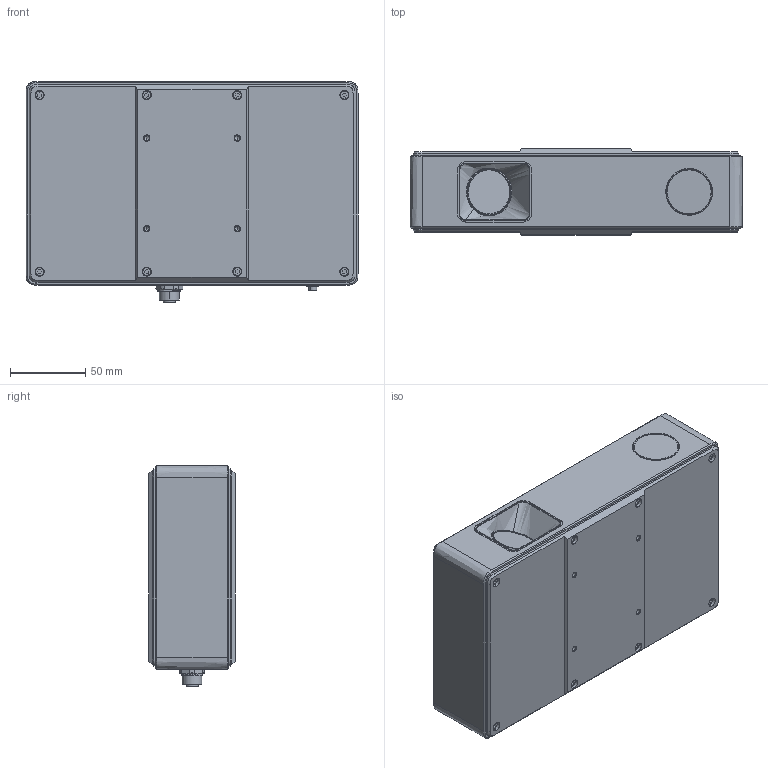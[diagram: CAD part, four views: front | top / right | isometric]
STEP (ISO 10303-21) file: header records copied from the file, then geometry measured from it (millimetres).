
FILE_DESCRIPTION(/* description */ (''),/* implementation_level */ '2;1');
FILE_NAME(/* name */ 'RVC-I3240',/* time_stamp */ '2024-01-17T16:50:05+08:00',/* author */ (''),/* organization */ (''),/* preprocessor_version */ 'ST-DEVELOPER v16.5',/* originating_system */ 'Rhino 7.25',/* authorisation */ '');
FILE_SCHEMA (('CONFIG_CONTROL_DESIGN'));
Length unit declared in the file: millimetre
Products named in the file (1): Document
Bounding box: 220 x 57 x 146.6 mm (x, y, z)
Volume: 1588107.9 mm3; surface area: 99725.7 mm2
Topology: 1 solids, 1 shells, 702 faces, 1736 edges, 1120 vertices
Faces by surface type: plane 325, bspline 239, cylinder 138
Entity records: 30699 total; most frequent: CARTESIAN_POINT 18427, ORIENTED_EDGE 3456, EDGE_CURVE 1728, B_SPLINE_CURVE_WITH_KNOTS 1325, VERTEX_POINT 1120, EDGE_LOOP 794, ADVANCED_FACE 702, FACE_OUTER_BOUND 702
